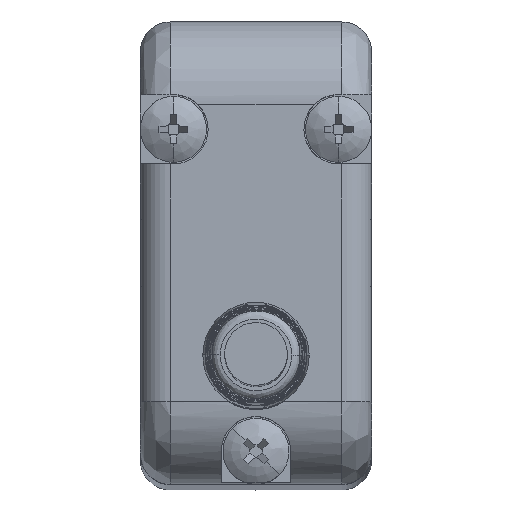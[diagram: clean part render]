
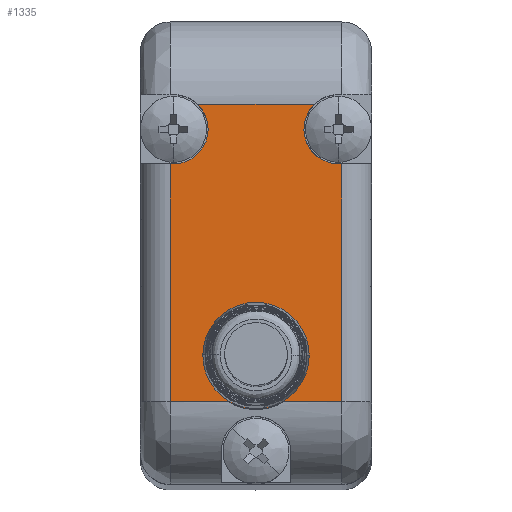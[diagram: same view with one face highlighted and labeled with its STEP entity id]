
A CAD part, top view. The second image highlights one B-rep face of the part: STEP entity #1335.
In plain terms, the highlighted planar face has unit normal (0, 0, 1).
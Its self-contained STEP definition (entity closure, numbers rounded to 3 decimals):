
#283 = DIRECTION ( 'NONE',  ( -1., 0., 0. ) ) ;
#297 = CARTESIAN_POINT ( 'NONE',  ( 41.431, -0.425, 58.281 ) ) ;
#305 = VECTOR ( 'NONE', #6830, 1000. ) ;
#476 = VERTEX_POINT ( 'NONE', #7270 ) ;
#496 = ORIENTED_EDGE ( 'NONE', *, *, #1118, .T. ) ;
#502 = DIRECTION ( 'NONE',  ( 0., -1., 0. ) ) ;
#606 = VERTEX_POINT ( 'NONE', #7578 ) ;
#621 = VECTOR ( 'NONE', #2395, 1000. ) ;
#918 = EDGE_CURVE ( 'NONE', #476, #8435, #6638, .T. ) ;
#997 = FACE_BOUND ( 'NONE', #10415, .T. ) ;
#1118 = EDGE_CURVE ( 'NONE', #7235, #3895, #1478, .T. ) ;
#1199 = CARTESIAN_POINT ( 'NONE',  ( 39.599, 17.575, 58.281 ) ) ;
#1212 = AXIS2_PLACEMENT_3D ( 'NONE', #1752, #8964, #2654 ) ;
#1335 = ADVANCED_FACE ( 'NONE', ( #6510, #997 ), #11127, .F. ) ;
#1478 = LINE ( 'NONE', #7952, #305 ) ;
#1619 = EDGE_CURVE ( 'NONE', #2373, #3340, #6152, .T. ) ;
#1652 = ORIENTED_EDGE ( 'NONE', *, *, #6257, .T. ) ;
#1723 = LINE ( 'NONE', #5400, #621 ) ;
#1752 = CARTESIAN_POINT ( 'NONE',  ( 43.13, 2.375, 58.281 ) ) ;
#1758 = AXIS2_PLACEMENT_3D ( 'NONE', #4813, #6368, #8407 ) ;
#1771 = CIRCLE ( 'NONE', #1212, 3.219 ) ;
#2088 = CARTESIAN_POINT ( 'NONE',  ( 43.13, 17.575, 58.281 ) ) ;
#2141 = ORIENTED_EDGE ( 'NONE', *, *, #5605, .F. ) ;
#2373 = VERTEX_POINT ( 'NONE', #10907 ) ;
#2395 = DIRECTION ( 'NONE',  ( -1., 0., 0. ) ) ;
#2407 = CARTESIAN_POINT ( 'NONE',  ( 37.93, 8.575, 58.281 ) ) ;
#2583 = DIRECTION ( 'NONE',  ( 0., 0., 1. ) ) ;
#2654 = DIRECTION ( 'NONE',  ( -1., 0., 0. ) ) ;
#2655 = DIRECTION ( 'NONE',  ( -1., 0., 0. ) ) ;
#2697 = CIRCLE ( 'NONE', #6929, 2.1 ) ;
#2718 = ORIENTED_EDGE ( 'NONE', *, *, #5378, .T. ) ;
#2894 = VERTEX_POINT ( 'NONE', #3051 ) ;
#3019 = DIRECTION ( 'NONE',  ( -1., 0., 0. ) ) ;
#3051 = CARTESIAN_POINT ( 'NONE',  ( 44.828, -0.425, 58.281 ) ) ;
#3131 = CARTESIAN_POINT ( 'NONE',  ( 48.33, 8.575, 58.281 ) ) ;
#3184 = LINE ( 'NONE', #3131, #9607 ) ;
#3340 = VERTEX_POINT ( 'NONE', #9065 ) ;
#3594 = DIRECTION ( 'NONE',  ( 1., 0., 0. ) ) ;
#3892 = LINE ( 'NONE', #2088, #10980 ) ;
#3895 = VERTEX_POINT ( 'NONE', #5644 ) ;
#4247 = EDGE_CURVE ( 'NONE', #9543, #5038, #8103, .T. ) ;
#4564 = CARTESIAN_POINT ( 'NONE',  ( 38.13, 16.075, 58.281 ) ) ;
#4568 = ORIENTED_EDGE ( 'NONE', *, *, #6580, .F. ) ;
#4614 = CARTESIAN_POINT ( 'NONE',  ( 43.13, -0.425, 58.281 ) ) ;
#4813 = CARTESIAN_POINT ( 'NONE',  ( 43.13, 2.375, 58.281 ) ) ;
#4919 = VERTEX_POINT ( 'NONE', #297 ) ;
#5031 = VECTOR ( 'NONE', #3019, 1000. ) ;
#5038 = VERTEX_POINT ( 'NONE', #7284 ) ;
#5197 = AXIS2_PLACEMENT_3D ( 'NONE', #8501, #7647, #283 ) ;
#5225 = ORIENTED_EDGE ( 'NONE', *, *, #8471, .F. ) ;
#5378 = EDGE_CURVE ( 'NONE', #606, #5038, #10101, .T. ) ;
#5400 = CARTESIAN_POINT ( 'NONE',  ( 43.13, -0.425, 58.281 ) ) ;
#5469 = CARTESIAN_POINT ( 'NONE',  ( 48.33, -0.425, 58.281 ) ) ;
#5605 = EDGE_CURVE ( 'NONE', #4919, #9543, #1723, .T. ) ;
#5644 = CARTESIAN_POINT ( 'NONE',  ( 48.13, 13.975, 58.281 ) ) ;
#5824 = DIRECTION ( 'NONE',  ( 1., 0., 0. ) ) ;
#5964 = ORIENTED_EDGE ( 'NONE', *, *, #918, .F. ) ;
#5981 = ORIENTED_EDGE ( 'NONE', *, *, #6666, .F. ) ;
#6077 = CARTESIAN_POINT ( 'NONE',  ( 48.13, 16.075, 58.281 ) ) ;
#6122 = CARTESIAN_POINT ( 'NONE',  ( 46.66, 17.575, 58.281 ) ) ;
#6152 = CIRCLE ( 'NONE', #9220, 3.219 ) ;
#6257 = EDGE_CURVE ( 'NONE', #3340, #2373, #1771, .T. ) ;
#6368 = DIRECTION ( 'NONE',  ( 0., 0., -1. ) ) ;
#6441 = ORIENTED_EDGE ( 'NONE', *, *, #6518, .F. ) ;
#6510 = FACE_OUTER_BOUND ( 'NONE', #7210, .T. ) ;
#6518 = EDGE_CURVE ( 'NONE', #7235, #11119, #3184, .T. ) ;
#6580 = EDGE_CURVE ( 'NONE', #9893, #3895, #7874, .T. ) ;
#6638 = CIRCLE ( 'NONE', #11233, 2.1 ) ;
#6666 = EDGE_CURVE ( 'NONE', #606, #476, #2697, .T. ) ;
#6830 = DIRECTION ( 'NONE',  ( -1., 0., 0. ) ) ;
#6929 = AXIS2_PLACEMENT_3D ( 'NONE', #4564, #10138, #3594 ) ;
#7035 = DIRECTION ( 'NONE',  ( 1., 0., 0. ) ) ;
#7156 = CARTESIAN_POINT ( 'NONE',  ( 37.93, -0.425, 58.281 ) ) ;
#7210 = EDGE_LOOP ( 'NONE', ( #2141, #7448, #9055, #6441, #496, #4568, #5225, #5964, #5981, #2718, #10787 ) ) ;
#7235 = VERTEX_POINT ( 'NONE', #9741 ) ;
#7270 = CARTESIAN_POINT ( 'NONE',  ( 40.23, 16.075, 58.281 ) ) ;
#7272 = CARTESIAN_POINT ( 'NONE',  ( 43.13, 2.375, 58.281 ) ) ;
#7284 = CARTESIAN_POINT ( 'NONE',  ( 37.93, 13.975, 58.281 ) ) ;
#7295 = AXIS2_PLACEMENT_3D ( 'NONE', #6077, #2583, #7035 ) ;
#7448 = ORIENTED_EDGE ( 'NONE', *, *, #7876, .F. ) ;
#7578 = CARTESIAN_POINT ( 'NONE',  ( 38.13, 13.975, 58.281 ) ) ;
#7647 = DIRECTION ( 'NONE',  ( 0., 0., -1. ) ) ;
#7874 = CIRCLE ( 'NONE', #7295, 2.1 ) ;
#7876 = EDGE_CURVE ( 'NONE', #2894, #4919, #11151, .T. ) ;
#7952 = CARTESIAN_POINT ( 'NONE',  ( 49.13, 13.975, 58.281 ) ) ;
#8052 = DIRECTION ( 'NONE',  ( 0., 0., -1. ) ) ;
#8103 = LINE ( 'NONE', #2407, #8388 ) ;
#8355 = EDGE_CURVE ( 'NONE', #11119, #2894, #9168, .T. ) ;
#8388 = VECTOR ( 'NONE', #11522, 1000. ) ;
#8407 = DIRECTION ( 'NONE',  ( -1., 0., 0. ) ) ;
#8435 = VERTEX_POINT ( 'NONE', #1199 ) ;
#8471 = EDGE_CURVE ( 'NONE', #8435, #9893, #3892, .T. ) ;
#8501 = CARTESIAN_POINT ( 'NONE',  ( 48.33, -0.425, 58.281 ) ) ;
#8964 = DIRECTION ( 'NONE',  ( 0., 0., -1. ) ) ;
#9021 = CARTESIAN_POINT ( 'NONE',  ( 37.13, 13.975, 58.281 ) ) ;
#9055 = ORIENTED_EDGE ( 'NONE', *, *, #8355, .F. ) ;
#9065 = CARTESIAN_POINT ( 'NONE',  ( 46.349, 2.34, 58.281 ) ) ;
#9168 = LINE ( 'NONE', #4614, #10970 ) ;
#9220 = AXIS2_PLACEMENT_3D ( 'NONE', #7272, #8052, #2655 ) ;
#9286 = DIRECTION ( 'NONE',  ( 1., 0., 0. ) ) ;
#9531 = DIRECTION ( 'NONE',  ( -1., 0., 0. ) ) ;
#9543 = VERTEX_POINT ( 'NONE', #7156 ) ;
#9607 = VECTOR ( 'NONE', #502, 1000. ) ;
#9741 = CARTESIAN_POINT ( 'NONE',  ( 48.33, 13.975, 58.281 ) ) ;
#9893 = VERTEX_POINT ( 'NONE', #6122 ) ;
#10101 = LINE ( 'NONE', #9021, #5031 ) ;
#10138 = DIRECTION ( 'NONE',  ( 0., 0., 1. ) ) ;
#10415 = EDGE_LOOP ( 'NONE', ( #11245, #1652 ) ) ;
#10787 = ORIENTED_EDGE ( 'NONE', *, *, #4247, .F. ) ;
#10907 = CARTESIAN_POINT ( 'NONE',  ( 39.91, 2.411, 58.281 ) ) ;
#10970 = VECTOR ( 'NONE', #9531, 1000. ) ;
#10980 = VECTOR ( 'NONE', #5824, 1000. ) ;
#11119 = VERTEX_POINT ( 'NONE', #5469 ) ;
#11127 = PLANE ( 'NONE',  #5197 ) ;
#11151 = CIRCLE ( 'NONE', #1758, 3.275 ) ;
#11233 = AXIS2_PLACEMENT_3D ( 'NONE', #11322, #11268, #9286 ) ;
#11245 = ORIENTED_EDGE ( 'NONE', *, *, #1619, .T. ) ;
#11268 = DIRECTION ( 'NONE',  ( 0., 0., 1. ) ) ;
#11322 = CARTESIAN_POINT ( 'NONE',  ( 38.13, 16.075, 58.281 ) ) ;
#11522 = DIRECTION ( 'NONE',  ( 0., 1., 0. ) ) ;
